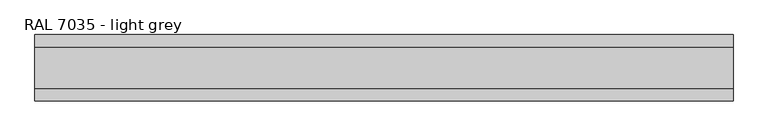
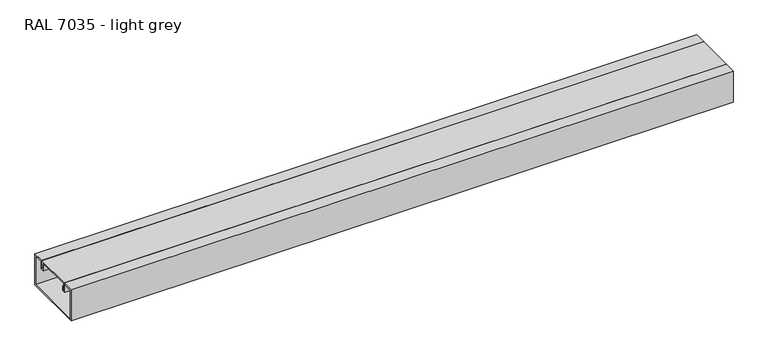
"""IFC4 building model written with IfcOpenShell, lengths in millimetres: proxy geometry, Electrical_Installations_Hager_BRP-Lid-End-Cap-One-Compartment : RAL 7035 - light grey."""

from ifc_helpers import new_model, si_unit, frame, origin, place, context, project, spatial, polyline, outline, extrude, source, transform, mapped, element, save


def ral_7035_light_grey_c893a5ae(model_context):
    return source(origin(), model_context, "Body", "SweptSolid", [
        extrude(outline(polyline([(40.0, 18.6492509), (37.5361498, 18.6492509), (37.5361498, 30.0), (-37.5361498, 30.0), (-37.5361498, 18.6492509), (-40.0, 18.6492509), (-40.0, 33.0), (40.0, 33.0), (40.0, 18.6492509)])), frame((0.0, 0.0, 0.0), z_axis=(1.0, 0.0, 0.0), x_axis=(0.0, 1.0, 0.0)), (0.0, 0.0, 1.0), 1365.5171527),
        extrude(outline(polyline([(65.0, 33.0), (65.0, -35.0582587), (-65.0, -35.0582587), (-65.0, 33.0), (-40.5, 33.0), (-40.5, 16.0), (-36.578125, 16.0), (-36.578125, 24.0415809), (-35.3, 24.0415809), (-35.3, 14.0), (-42.5, 14.0), (-42.5, 30.0), (-62.0, 30.0), (-62.0, -32.0582587), (62.0, -32.0582587), (62.0, 30.0), (42.5, 30.0), (42.5, 14.0), (35.221875, 14.0), (35.221875, 24.0415809), (36.5, 24.0415809), (36.5, 16.0), (40.5, 16.0), (40.5, 33.0), (65.0, 33.0)])), frame((0.0, 0.0, 0.0), z_axis=(1.0, 0.0, 0.0), x_axis=(0.0, 1.0, 0.0)), (0.0, 0.0, 1.0), 1365.5171527),
    ])


if __name__ == "__main__":
    model = new_model("IFC4")
    model_context = context("Model", 3, world=origin())
    ifc_project = project(units=[si_unit("LENGTHUNIT", "METRE", prefix="MILLI")], contexts=[model_context])
    site = spatial("IfcSite", under=ifc_project)
    building = spatial("IfcBuilding", under=site)
    placement = place(None, origin())
    ral_7035_light_grey_shape = ral_7035_light_grey_c893a5ae(model_context)
    element("IfcBuildingElementProxy", 1, Name="Electrical_Installations_Hager_BRP-Lid-End-Cap-One-Compartment : RAL 7035 - light grey", ObjectType="Electrical_Installations_Hager_BRP-Lid-End-Cap-One-Compartment : RAL 7035 - light grey", at=placement, inside=building, context=model_context, shape_type="MappedRepresentation", body=[
        mapped(ral_7035_light_grey_shape, transform((0.0, 0.0, 0.0), x_axis=(1.0, 0.0, 0.0), y_axis=(0.0, 1.0, 0.0), z_axis=(0.0, 0.0, 1.0))),
    ])
    save(model, "model.ifc")
